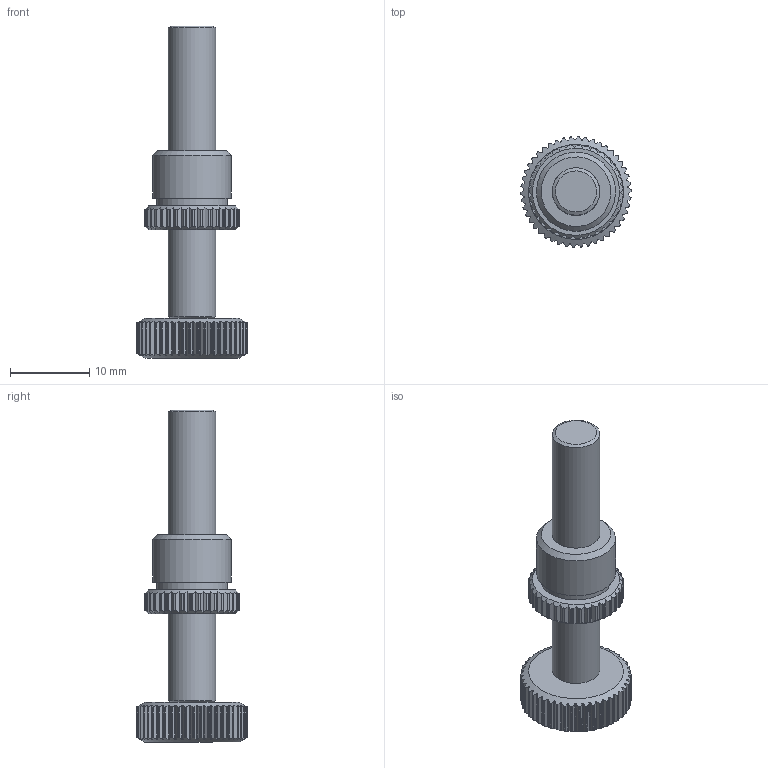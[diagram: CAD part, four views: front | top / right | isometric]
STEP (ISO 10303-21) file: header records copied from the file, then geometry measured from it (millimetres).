
FILE_DESCRIPTION(/* description */ (''),/* implementation_level */ '2;1');
FILE_NAME(/* name */ 'U:\KONSTRUKTORIAI\DOKUMENTACIJA\9\9S127BM\step\9S127BM-25.stp',/* time_stamp */ '2017-02-27T10:05:21+02:00',/* author */ ('dsgn33'),/* organization */ (''),/* preprocessor_version */ 'ST-DEVELOPER v15.2',/* originating_system */ 'Autodesk Inventor 2014',/* authorisation */ '');
FILE_SCHEMA (('AUTOMOTIVE_DESIGN { 1 0 10303 214 3 1 1 }'));
Length unit declared in the file: millimetre
Products named in the file (2): Part6; Assembly3
Bounding box: 14 x 13.99 x 42 mm (x, y, z)
Volume: 2222.6 mm3; surface area: 1727.3 mm2
Topology: 1 solids, 1 shells, 772 faces, 2252 edges, 1498 vertices
Faces by surface type: cylinder 388, plane 307, bspline 64, cone 13
Full cylindrical faces by diameter (mm): 1.5 x1, 3 x1, 3.1 x1, 6 x2, 9 x1, 10 x1
Entity records: 27398 total; most frequent: CARTESIAN_POINT 8743, ORIENTED_EDGE 4442, DIRECTION 3312, EDGE_CURVE 2221, VERTEX_POINT 1487, AXIS2_PLACEMENT_3D 1206, LINE 900, VECTOR 900
